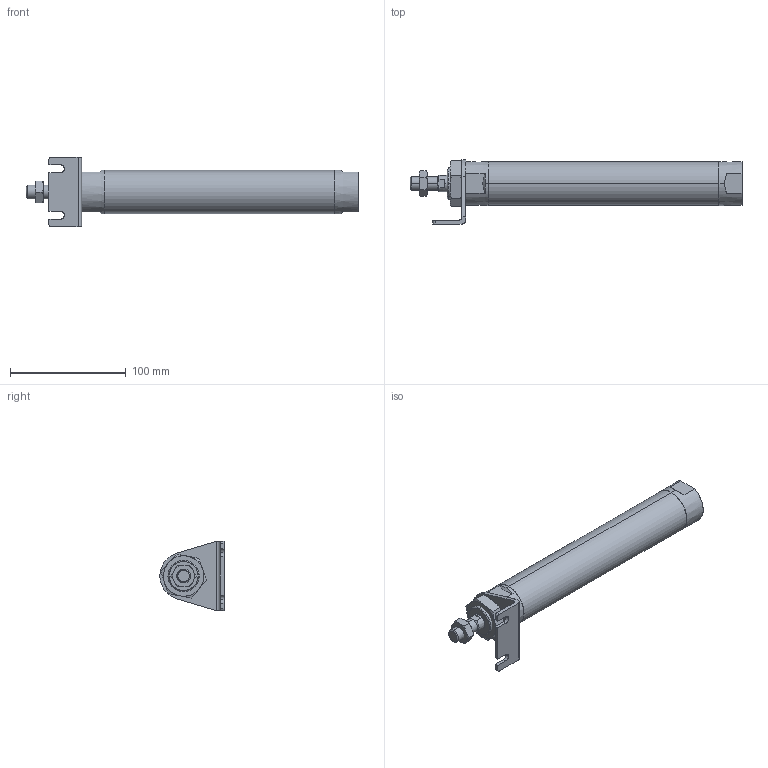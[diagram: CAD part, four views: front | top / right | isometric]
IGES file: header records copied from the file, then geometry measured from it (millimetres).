
Start section: SolidWorks IGES file using analytic representation for surfaces
Global section: file name: C:\Users\Toshiba\Desktop\JGND2-32-150-L.IGS; native system: SolidWorks 2014; preprocessor: SolidWorks 2014; author: Toshiba; date: 160804.105449; units: millimetre
Bounding box: 287 x 55.5 x 60 mm (x, y, z)
Surface area: 46028.6 mm2 (no closed solid volume)
Topology: 0 solids, 0 shells, 116 faces, 1918 edges, 1914 vertices
Faces by surface type: bspline 71, revolution 45
